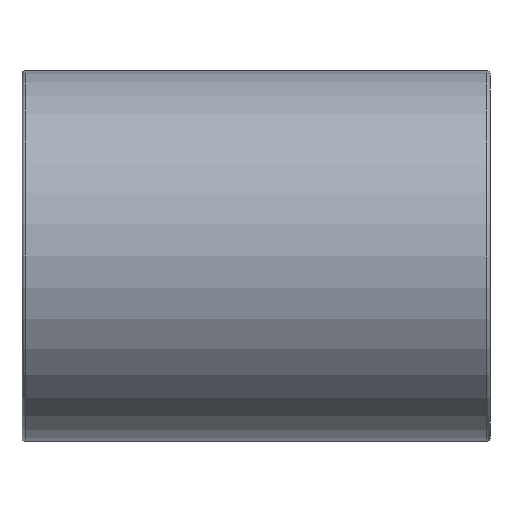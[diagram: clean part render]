
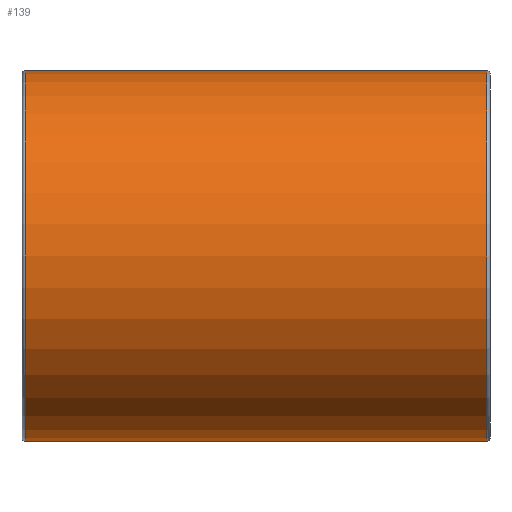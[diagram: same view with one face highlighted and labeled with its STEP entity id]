
A CAD part, front view. The second image highlights one B-rep face of the part: STEP entity #139.
In plain terms, the highlighted cylindrical face has radius 19 mm (diameter 38 mm), a full revolution.
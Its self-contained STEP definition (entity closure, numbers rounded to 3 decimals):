
#16=CYLINDRICAL_SURFACE('',#158,19.);
#27=FACE_BOUND('',#56,.T.);
#39=FACE_OUTER_BOUND('',#55,.T.);
#55=EDGE_LOOP('',(#115));
#56=EDGE_LOOP('',(#116));
#75=CIRCLE('',#157,19.);
#76=CIRCLE('',#159,19.);
#87=VERTEX_POINT('',#236);
#88=VERTEX_POINT('',#239);
#99=EDGE_CURVE('',#87,#87,#75,.T.);
#100=EDGE_CURVE('',#88,#88,#76,.T.);
#115=ORIENTED_EDGE('',*,*,#100,.F.);
#116=ORIENTED_EDGE('',*,*,#99,.F.);
#139=ADVANCED_FACE('',(#39,#27),#16,.T.);
#157=AXIS2_PLACEMENT_3D('',#237,#191,#192);
#158=AXIS2_PLACEMENT_3D('',#238,#193,#194);
#159=AXIS2_PLACEMENT_3D('',#240,#195,#196);
#191=DIRECTION('center_axis',(-1.,0.,0.));
#192=DIRECTION('ref_axis',(0.,-1.,0.));
#193=DIRECTION('center_axis',(1.,0.,0.));
#194=DIRECTION('ref_axis',(0.,1.,0.));
#195=DIRECTION('center_axis',(1.,0.,0.));
#196=DIRECTION('ref_axis',(0.,-1.,0.));
#236=CARTESIAN_POINT('',(-23.68,19.,0.));
#237=CARTESIAN_POINT('Origin',(-23.68,0.,0.));
#238=CARTESIAN_POINT('Origin',(0.,0.,
0.));
#239=CARTESIAN_POINT('',(23.68,19.,0.));
#240=CARTESIAN_POINT('Origin',(23.68,0.,0.));
